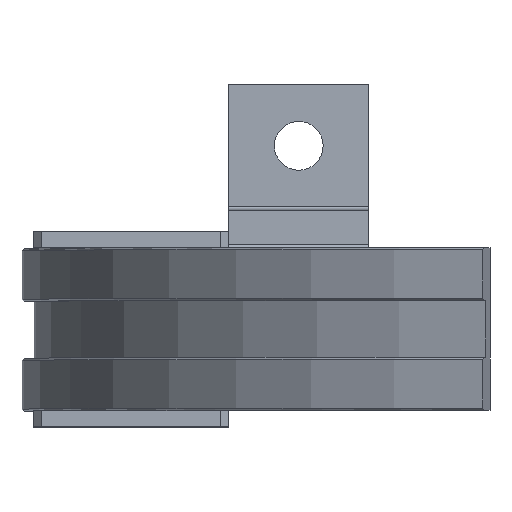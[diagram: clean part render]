
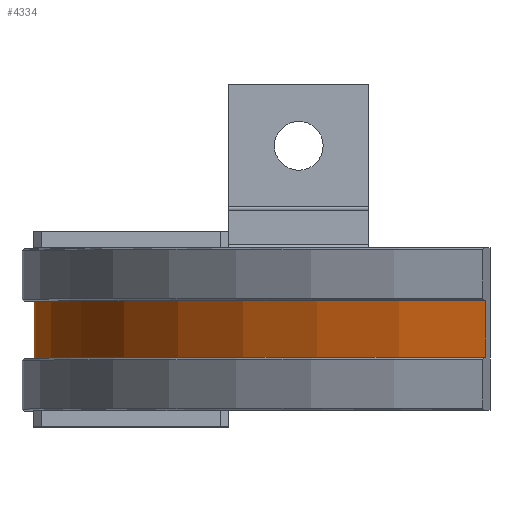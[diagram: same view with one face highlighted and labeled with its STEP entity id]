
A CAD part, top view. The second image highlights one B-rep face of the part: STEP entity #4334.
In plain terms, the highlighted cylindrical face has radius 141950 mm (diameter 283900 mm), a partial arc.
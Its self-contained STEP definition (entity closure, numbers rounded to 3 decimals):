
#3375 = PLANE('',#3376);
#3376 = AXIS2_PLACEMENT_3D('',#3377,#3378,#3379);
#3377 = CARTESIAN_POINT('',(143904.724,44000.,
    -30471.153));
#3378 = DIRECTION('',(-0.216,0.,0.976));
#3379 = DIRECTION('',(0.,-1.,0.));
#3508 = VERTEX_POINT('',#3509);
#3509 = CARTESIAN_POINT('',(5319.506,17000.,-61194.757
    ));
#3523 = PLANE('',#3524);
#3524 = AXIS2_PLACEMENT_3D('',#3525,#3526,#3527);
#3525 = CARTESIAN_POINT('',(282489.943,17000.,252.45)
  );
#3526 = DIRECTION('',(0.,1.,0.));
#3527 = DIRECTION('',(-0.216,0.,0.976));
#3535 = EDGE_CURVE('',#3508,#3536,#3538,.T.);
#3536 = VERTEX_POINT('',#3537);
#3537 = CARTESIAN_POINT('',(5319.506,31000.,-61194.757
    ));
#3538 = SURFACE_CURVE('',#3539,(#3543,#3550),.PCURVE_S1.);
#3539 = LINE('',#3540,#3541);
#3540 = CARTESIAN_POINT('',(5319.506,-26000.,
    -61194.757));
#3541 = VECTOR('',#3542,1000.);
#3542 = DIRECTION('',(0.,1.,0.));
#3543 = PCURVE('',#3375,#3544);
#3544 = DEFINITIONAL_REPRESENTATION('',(#3545),#3549);
#3545 = LINE('',#3546,#3547);
#3546 = CARTESIAN_POINT('',(70000.,-141950.));
#3547 = VECTOR('',#3548,1.);
#3548 = DIRECTION('',(-1.,0.));
#3549 = ( GEOMETRIC_REPRESENTATION_CONTEXT(2) 
PARAMETRIC_REPRESENTATION_CONTEXT() REPRESENTATION_CONTEXT('2D SPACE',''
  ) );
#3550 = PCURVE('',#3551,#3556);
#3551 = CYLINDRICAL_SURFACE('',#3552,141950.);
#3552 = AXIS2_PLACEMENT_3D('',#3553,#3554,#3555);
#3553 = CARTESIAN_POINT('',(143904.724,-26000.,
    -30471.153));
#3554 = DIRECTION('',(0.,-1.,0.));
#3555 = DIRECTION('',(0.216,0.,-0.976));
#3556 = DEFINITIONAL_REPRESENTATION('',(#3557),#3560);
#3557 = B_SPLINE_CURVE_WITH_KNOTS('',1,(#3558,#3559),.UNSPECIFIED.,.F.,
  .F.,(2,2),(43.,57.),.PIECEWISE_BEZIER_KNOTS.);
#3558 = CARTESIAN_POINT('',(4.712,-43000.));
#3559 = CARTESIAN_POINT('',(4.712,-57000.));
#3560 = ( GEOMETRIC_REPRESENTATION_CONTEXT(2) 
PARAMETRIC_REPRESENTATION_CONTEXT() REPRESENTATION_CONTEXT('2D SPACE',''
  ) );
#3578 = PLANE('',#3579);
#3579 = AXIS2_PLACEMENT_3D('',#3580,#3581,#3582);
#3580 = CARTESIAN_POINT('',(282489.943,31000.,252.45)
  );
#3581 = DIRECTION('',(0.,-1.,0.));
#3582 = DIRECTION('',(0.216,0.,-0.976));
#3795 = PLANE('',#3796);
#3796 = AXIS2_PLACEMENT_3D('',#3797,#3798,#3799);
#3797 = CARTESIAN_POINT('',(143904.724,44000.,
    -30471.153));
#3798 = DIRECTION('',(-0.976,0.,-0.216
    ));
#3799 = DIRECTION('',(0.,1.,0.));
#4288 = VERTEX_POINT('',#4289);
#4289 = CARTESIAN_POINT('',(113181.121,17000.,
    108114.065));
#4310 = EDGE_CURVE('',#4288,#3508,#4311,.T.);
#4311 = SURFACE_CURVE('',#4312,(#4317,#4328),.PCURVE_S1.);
#4312 = CIRCLE('',#4313,141950.);
#4313 = AXIS2_PLACEMENT_3D('',#4314,#4315,#4316);
#4314 = CARTESIAN_POINT('',(143904.724,17000.,
    -30471.153));
#4315 = DIRECTION('',(0.,-1.,0.));
#4316 = DIRECTION('',(0.216,0.,-0.976));
#4317 = PCURVE('',#3523,#4318);
#4318 = DEFINITIONAL_REPRESENTATION('',(#4319),#4327);
#4319 = ( BOUNDED_CURVE() B_SPLINE_CURVE(2,(#4320,#4321,#4322,#4323,
#4324,#4325,#4326),.UNSPECIFIED.,.F.,.F.) B_SPLINE_CURVE_WITH_KNOTS((1,2
    ,2,2,2,1),(-2.094,0.,2.094,4.189,
6.283,8.378),.UNSPECIFIED.) CURVE() 
GEOMETRIC_REPRESENTATION_ITEM() RATIONAL_B_SPLINE_CURVE((1.,0.5,1.,0.5,
1.,0.5,1.)) REPRESENTATION_ITEM('') );
#4320 = CARTESIAN_POINT('',(-141950.,-141.95));
#4321 = CARTESIAN_POINT('',(-141950.,245722.662));
#4322 = CARTESIAN_POINT('',(70975.,122790.356));
#4323 = CARTESIAN_POINT('',(283900.,-141.95));
#4324 = CARTESIAN_POINT('',(70975.,-123074.256));
#4325 = CARTESIAN_POINT('',(-141950.,-246006.562));
#4326 = CARTESIAN_POINT('',(-141950.,-141.95));
#4327 = ( GEOMETRIC_REPRESENTATION_CONTEXT(2) 
PARAMETRIC_REPRESENTATION_CONTEXT() REPRESENTATION_CONTEXT('2D SPACE',''
  ) );
#4328 = PCURVE('',#3551,#4329);
#4329 = DEFINITIONAL_REPRESENTATION('',(#4330),#4333);
#4330 = B_SPLINE_CURVE_WITH_KNOTS('',1,(#4331,#4332),.UNSPECIFIED.,.F.,
  .F.,(2,2),(3.142,4.712),.PIECEWISE_BEZIER_KNOTS.);
#4331 = CARTESIAN_POINT('',(3.142,-43000.));
#4332 = CARTESIAN_POINT('',(4.712,-43000.));
#4333 = ( GEOMETRIC_REPRESENTATION_CONTEXT(2) 
PARAMETRIC_REPRESENTATION_CONTEXT() REPRESENTATION_CONTEXT('2D SPACE',''
  ) );
#4334 = ADVANCED_FACE('',(#4335),#3551,.T.);
#4335 = FACE_BOUND('',#4336,.T.);
#4336 = EDGE_LOOP('',(#4337,#4338,#4339,#4361));
#4337 = ORIENTED_EDGE('',*,*,#3535,.F.);
#4338 = ORIENTED_EDGE('',*,*,#4310,.F.);
#4339 = ORIENTED_EDGE('',*,*,#4340,.F.);
#4340 = EDGE_CURVE('',#4341,#4288,#4343,.T.);
#4341 = VERTEX_POINT('',#4342);
#4342 = CARTESIAN_POINT('',(113181.121,31000.,
    108114.065));
#4343 = SURFACE_CURVE('',#4344,(#4348,#4354),.PCURVE_S1.);
#4344 = LINE('',#4345,#4346);
#4345 = CARTESIAN_POINT('',(113181.121,-26000.,
    108114.065));
#4346 = VECTOR('',#4347,1000.);
#4347 = DIRECTION('',(0.,-1.,0.));
#4348 = PCURVE('',#3551,#4349);
#4349 = DEFINITIONAL_REPRESENTATION('',(#4350),#4353);
#4350 = B_SPLINE_CURVE_WITH_KNOTS('',1,(#4351,#4352),.UNSPECIFIED.,.F.,
  .F.,(2,2),(-57.,-43.),.PIECEWISE_BEZIER_KNOTS.);
#4351 = CARTESIAN_POINT('',(3.142,-57000.));
#4352 = CARTESIAN_POINT('',(3.142,-43000.));
#4353 = ( GEOMETRIC_REPRESENTATION_CONTEXT(2) 
PARAMETRIC_REPRESENTATION_CONTEXT() REPRESENTATION_CONTEXT('2D SPACE',''
  ) );
#4354 = PCURVE('',#3795,#4355);
#4355 = DEFINITIONAL_REPRESENTATION('',(#4356),#4360);
#4356 = LINE('',#4357,#4358);
#4357 = CARTESIAN_POINT('',(-70000.,-141950.));
#4358 = VECTOR('',#4359,1.);
#4359 = DIRECTION('',(-1.,0.));
#4360 = ( GEOMETRIC_REPRESENTATION_CONTEXT(2) 
PARAMETRIC_REPRESENTATION_CONTEXT() REPRESENTATION_CONTEXT('2D SPACE',''
  ) );
#4361 = ORIENTED_EDGE('',*,*,#4362,.T.);
#4362 = EDGE_CURVE('',#4341,#3536,#4363,.T.);
#4363 = SURFACE_CURVE('',#4364,(#4369,#4375),.PCURVE_S1.);
#4364 = CIRCLE('',#4365,141950.);
#4365 = AXIS2_PLACEMENT_3D('',#4366,#4367,#4368);
#4366 = CARTESIAN_POINT('',(143904.724,31000.,
    -30471.153));
#4367 = DIRECTION('',(0.,-1.,0.));
#4368 = DIRECTION('',(0.216,0.,-0.976));
#4369 = PCURVE('',#3551,#4370);
#4370 = DEFINITIONAL_REPRESENTATION('',(#4371),#4374);
#4371 = B_SPLINE_CURVE_WITH_KNOTS('',1,(#4372,#4373),.UNSPECIFIED.,.F.,
  .F.,(2,2),(3.142,4.712),.PIECEWISE_BEZIER_KNOTS.);
#4372 = CARTESIAN_POINT('',(3.142,-57000.));
#4373 = CARTESIAN_POINT('',(4.712,-57000.));
#4374 = ( GEOMETRIC_REPRESENTATION_CONTEXT(2) 
PARAMETRIC_REPRESENTATION_CONTEXT() REPRESENTATION_CONTEXT('2D SPACE',''
  ) );
#4375 = PCURVE('',#3578,#4376);
#4376 = DEFINITIONAL_REPRESENTATION('',(#4377),#4381);
#4377 = CIRCLE('',#4378,141950.);
#4378 = AXIS2_PLACEMENT_2D('',#4379,#4380);
#4379 = CARTESIAN_POINT('',(0.,-141.95));
#4380 = DIRECTION('',(1.,0.));
#4381 = ( GEOMETRIC_REPRESENTATION_CONTEXT(2) 
PARAMETRIC_REPRESENTATION_CONTEXT() REPRESENTATION_CONTEXT('2D SPACE',''
  ) );
